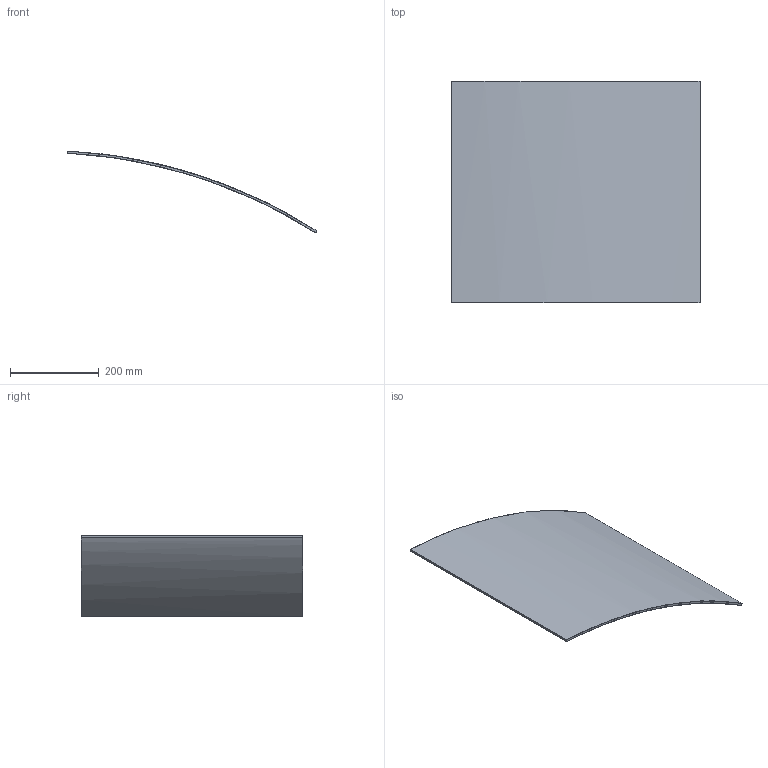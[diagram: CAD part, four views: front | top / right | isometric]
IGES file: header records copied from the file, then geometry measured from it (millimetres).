
Start section: Comment
Global section: file name: sphere_mirror_negx_posy.iges; native system:  By UGS Corp.; preprocessor: XPlus GENERIC/IGES 3.0; author: Author; organization: Title; date: 20090504.151301; units: millimetre
Bounding box: 560 x 500 x 185.02 mm (x, y, z)
Surface area: 606069.3 mm2 (no closed solid volume)
Topology: 0 solids, 0 shells, 6 faces, 24 edges, 24 vertices
Faces by surface type: bspline 6
